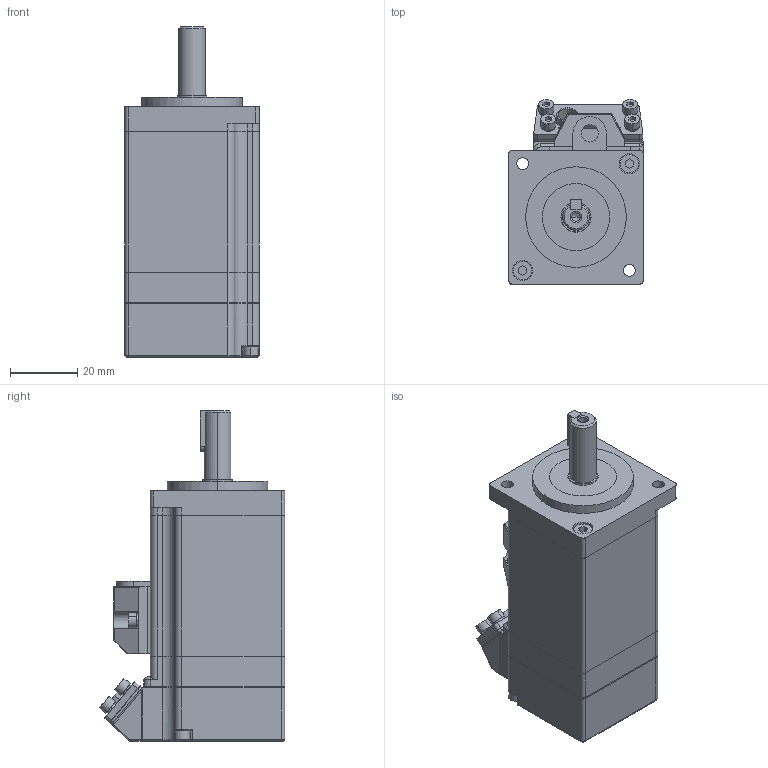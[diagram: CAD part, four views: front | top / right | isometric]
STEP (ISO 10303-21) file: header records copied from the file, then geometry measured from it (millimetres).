
FILE_DESCRIPTION (( 'STEP AP203' ), '1' );
FILE_NAME ('SMC40S-0005-30MAK-5DSU.STEP', '2020-08-10T07:06:34', ( '' ), ( '' ), 'SwSTEP 2.0', 'SolidWorks 2016', '' );
FILE_SCHEMA (( 'CONFIG_CONTROL_DESIGN' ));
Length unit declared in the file: millimetre
Products named in the file (24): 10109020116儂褲-V1.4; 10109090001萇埭竘盄碟; 207010267隅赽軞傖-V1.0; 10109010024前端盖-V1.0; 10110060015编码器引线盒密封圈-V1.0; 10105050031普通C型平键GBT1096-C3X3X12; 10105080027粣創619-8ZZ; 10105010014内六角圆柱头螺钉M3X8; 10105010001内六角圆柱头螺钉M2.5X6; 10105030018 GBT93 标准弹簧垫圈 2.5; 10105080015綴粣創619-9-ZZ(NSK 699ZZ); 10109020031儂褲禱矗-V1.2; 10105010027内六角圆柱头螺钉M3X12; 10109090003晤鎢ん竘盄碟-V1.0; 10109070053鎢攫欶-V1.0; SMC40S-0005-30MAK-5DSU; 10109030045綴傷裔-V1.1; 10105070020嘎殤蚐猾VC9X20X3; 10108030330蛌粣-V1.0; 10105010003内六角圆柱头螺钉M2.5X4; 10110060001萇埭竘盄菜; 10110050003躇猾菜B-V1.0; 207040307蛌赽-V1.0; 10105010051内六角圆柱头螺钉M2.5X20
Assembly tree (40 placements, depth 4):
  SMC40S-0005-30MAK-5DSU
    10109010024前端盖-V1.0
    207010267隅赽軞傖-V1.0
      10109020116儂褲-V1.4
        10109020031儂褲禱矗-V1.2
      10110060001萇埭竘盄菜
      10109090001萇埭竘盄碟
      10105010001内六角圆柱头螺钉M2.5X6  x2
      10105010003内六角圆柱头螺钉M2.5X4
      10105030018 GBT93 标准弹簧垫圈 2.5  x3
    10109030045綴傷裔-V1.1
    10105080027粣創619-8ZZ
    207040307蛌赽-V1.0
      10108030330蛌粣-V1.0
    10105080015綴粣創619-9-ZZ(NSK 699ZZ)
    10105070020嘎殤蚐猾VC9X20X3
    10110050003躇猾菜B-V1.0
    10109070053鎢攫欶-V1.0
    10110060015编码器引线盒密封圈-V1.0
    10109090003晤鎢ん竘盄碟-V1.0
    10105030018 GBT93 标准弹簧垫圈 2.5  x4
    10105010001内六角圆柱头螺钉M2.5X6  x4
    10105010027内六角圆柱头螺钉M3X12  x4
    10105010051内六角圆柱头螺钉M2.5X20  x2
    10105050031普通C型平键GBT1096-C3X3X12
    10105010014内六角圆柱头螺钉M3X8  x3
Bounding box: 40 x 55.21 x 98.4 mm (x, y, z)
Volume: 63648.2 mm3; surface area: 48421.9 mm2
Topology: 37 solids, 37 shells, 963 faces, 2369 edges, 1527 vertices
Faces by surface type: cylinder 466, plane 409, cone 63, sphere 13, torus 10, bspline 2
Entity records: 25605 total; most frequent: CARTESIAN_POINT 4185, DIRECTION 4135, ORIENTED_EDGE 3674, EDGE_CURVE 1837, AXIS2_PLACEMENT_3D 1589, VERTEX_POINT 1187, LINE 957, VECTOR 957
